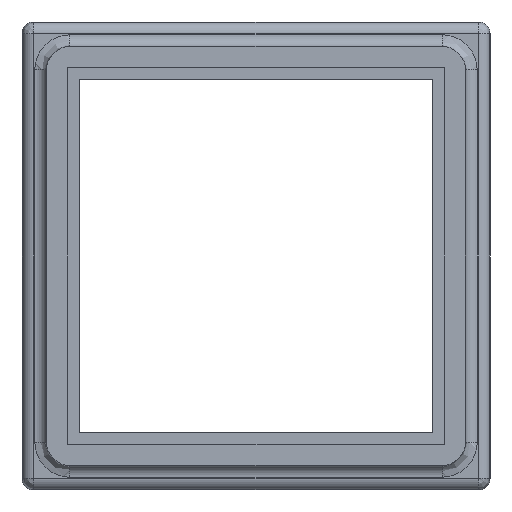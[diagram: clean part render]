
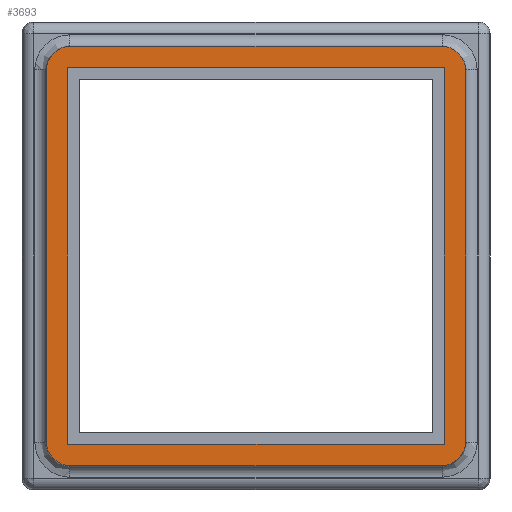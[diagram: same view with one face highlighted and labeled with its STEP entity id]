
A CAD part, left-side view. The second image highlights one B-rep face of the part: STEP entity #3693.
In plain terms, the highlighted planar face has unit normal (-1, 0, 0).
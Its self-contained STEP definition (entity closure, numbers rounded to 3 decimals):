
#161 = FACE_BOUND ( 'NONE', #1846, .T. ) ;
#168 = VECTOR ( 'NONE', #1755, 1000. ) ;
#198 = CARTESIAN_POINT ( 'NONE',  ( -85., 35.9, 15.9 ) ) ;
#298 = VECTOR ( 'NONE', #2063, 1000. ) ;
#305 = EDGE_CURVE ( 'NONE', #1193, #5551, #4765, .T. ) ;
#326 = CARTESIAN_POINT ( 'NONE',  ( -85., 0., 16.1 ) ) ;
#457 = ORIENTED_EDGE ( 'NONE', *, *, #557, .T. ) ;
#467 = EDGE_CURVE ( 'NONE', #1795, #5581, #920, .T. ) ;
#557 = EDGE_CURVE ( 'NONE', #5449, #3207, #5552, .T. ) ;
#611 = VECTOR ( 'NONE', #3417, 1000. ) ;
#741 = DIRECTION ( 'NONE',  ( 0., 1., 0. ) ) ;
#839 = EDGE_LOOP ( 'NONE', ( #457, #5276, #3387, #2183, #4678, #1726, #1182, #4407 ) ) ;
#909 = DIRECTION ( 'NONE',  ( -1., 0., 0. ) ) ;
#920 = LINE ( 'NONE', #2649, #1721 ) ;
#1022 = PLANE ( 'NONE',  #5036 ) ;
#1033 = DIRECTION ( 'NONE',  ( 1., 0., 0. ) ) ;
#1115 = DIRECTION ( 'NONE',  ( 0., 0., -1. ) ) ;
#1136 = CARTESIAN_POINT ( 'NONE',  ( -85., 3.9, 0. ) ) ;
#1182 = ORIENTED_EDGE ( 'NONE', *, *, #2190, .T. ) ;
#1193 = VERTEX_POINT ( 'NONE', #3583 ) ;
#1219 = CIRCLE ( 'NONE', #3924, 2. ) ;
#1234 = AXIS2_PLACEMENT_3D ( 'NONE', #198, #1033, #1115 ) ;
#1431 = CIRCLE ( 'NONE', #4405, 2. ) ;
#1611 = EDGE_CURVE ( 'NONE', #2762, #3570, #3285, .T. ) ;
#1651 = CARTESIAN_POINT ( 'NONE',  ( -85., 37.9, -15.9 ) ) ;
#1664 = CARTESIAN_POINT ( 'NONE',  ( -85., 2.1, 17.9 ) ) ;
#1677 = CARTESIAN_POINT ( 'NONE',  ( -85., 37.9, -17.9 ) ) ;
#1721 = VECTOR ( 'NONE', #2254, 1000. ) ;
#1726 = ORIENTED_EDGE ( 'NONE', *, *, #4404, .T. ) ;
#1755 = DIRECTION ( 'NONE',  ( 0., 0., 1. ) ) ;
#1761 = CARTESIAN_POINT ( 'NONE',  ( -85., 4.1, -15.9 ) ) ;
#1770 = ORIENTED_EDGE ( 'NONE', *, *, #1611, .T. ) ;
#1777 = EDGE_CURVE ( 'NONE', #4358, #5108, #5621, .T. ) ;
#1795 = VERTEX_POINT ( 'NONE', #4357 ) ;
#1846 = EDGE_LOOP ( 'NONE', ( #4170, #1770, #2518, #4227 ) ) ;
#1955 = LINE ( 'NONE', #2886, #5345 ) ;
#2040 = LINE ( 'NONE', #326, #611 ) ;
#2063 = DIRECTION ( 'NONE',  ( 0., 1., 0. ) ) ;
#2102 = CARTESIAN_POINT ( 'NONE',  ( -85., 35.9, -17.9 ) ) ;
#2160 = CARTESIAN_POINT ( 'NONE',  ( -85., 2.1, -15.9 ) ) ;
#2183 = ORIENTED_EDGE ( 'NONE', *, *, #2264, .F. ) ;
#2190 = EDGE_CURVE ( 'NONE', #3046, #5185, #1955, .T. ) ;
#2210 = DIRECTION ( 'NONE',  ( -1., 0., 0. ) ) ;
#2254 = DIRECTION ( 'NONE',  ( 0., 0., -1. ) ) ;
#2264 = EDGE_CURVE ( 'NONE', #4358, #5581, #1431, .T. ) ;
#2293 = EDGE_CURVE ( 'NONE', #5551, #2762, #2040, .T. ) ;
#2298 = CARTESIAN_POINT ( 'NONE',  ( -85., 4.1, 15.9 ) ) ;
#2518 = ORIENTED_EDGE ( 'NONE', *, *, #4281, .T. ) ;
#2528 = LINE ( 'NONE', #4627, #4188 ) ;
#2544 = DIRECTION ( 'NONE',  ( 1., 0., 0. ) ) ;
#2649 = CARTESIAN_POINT ( 'NONE',  ( -85., 37.9, 17.9 ) ) ;
#2697 = DIRECTION ( 'NONE',  ( 0., 0., -1. ) ) ;
#2724 = FACE_OUTER_BOUND ( 'NONE', #839, .T. ) ;
#2762 = VERTEX_POINT ( 'NONE', #4048 ) ;
#2833 = DIRECTION ( 'NONE',  ( 0., 0., -1. ) ) ;
#2865 = DIRECTION ( 'NONE',  ( 0., 0., -1. ) ) ;
#2886 = CARTESIAN_POINT ( 'NONE',  ( -85., 2.1, -17.9 ) ) ;
#3026 = AXIS2_PLACEMENT_3D ( 'NONE', #1761, #909, #2697 ) ;
#3046 = VERTEX_POINT ( 'NONE', #2160 ) ;
#3187 = CARTESIAN_POINT ( 'NONE',  ( -85., 3.9, -16.1 ) ) ;
#3206 = CIRCLE ( 'NONE', #3026, 2. ) ;
#3207 = VERTEX_POINT ( 'NONE', #4097 ) ;
#3285 = LINE ( 'NONE', #1136, #4654 ) ;
#3380 = VECTOR ( 'NONE', #4684, 1000. ) ;
#3387 = ORIENTED_EDGE ( 'NONE', *, *, #467, .T. ) ;
#3417 = DIRECTION ( 'NONE',  ( 0., -1., 0. ) ) ;
#3570 = VERTEX_POINT ( 'NONE', #3187 ) ;
#3583 = CARTESIAN_POINT ( 'NONE',  ( -85., 36.1, -16.1 ) ) ;
#3693 = ADVANCED_FACE ( 'NONE', ( #2724, #161 ), #1022, .T. ) ;
#3726 = CARTESIAN_POINT ( 'NONE',  ( -85., 4.1, -17.9 ) ) ;
#3900 = CARTESIAN_POINT ( 'NONE',  ( -85., 36.1, 0. ) ) ;
#3924 = AXIS2_PLACEMENT_3D ( 'NONE', #2298, #4913, #2833 ) ;
#4048 = CARTESIAN_POINT ( 'NONE',  ( -85., 3.9, 16.1 ) ) ;
#4097 = CARTESIAN_POINT ( 'NONE',  ( -85., 35.9, 17.9 ) ) ;
#4154 = EDGE_CURVE ( 'NONE', #1795, #3207, #5403, .T. ) ;
#4170 = ORIENTED_EDGE ( 'NONE', *, *, #2293, .T. ) ;
#4188 = VECTOR ( 'NONE', #741, 1000. ) ;
#4202 = DIRECTION ( 'NONE',  ( 0., 0., -1. ) ) ;
#4227 = ORIENTED_EDGE ( 'NONE', *, *, #305, .T. ) ;
#4259 = CARTESIAN_POINT ( 'NONE',  ( -85., 35.9, -15.9 ) ) ;
#4281 = EDGE_CURVE ( 'NONE', #3570, #1193, #2528, .T. ) ;
#4357 = CARTESIAN_POINT ( 'NONE',  ( -85., 37.9, 15.9 ) ) ;
#4358 = VERTEX_POINT ( 'NONE', #2102 ) ;
#4404 = EDGE_CURVE ( 'NONE', #5108, #3046, #3206, .T. ) ;
#4405 = AXIS2_PLACEMENT_3D ( 'NONE', #4259, #2544, #4202 ) ;
#4407 = ORIENTED_EDGE ( 'NONE', *, *, #4592, .T. ) ;
#4592 = EDGE_CURVE ( 'NONE', #5185, #5449, #1219, .T. ) ;
#4626 = CARTESIAN_POINT ( 'NONE',  ( -85., 36.1, 16.1 ) ) ;
#4627 = CARTESIAN_POINT ( 'NONE',  ( -85., 0., -16.1 ) ) ;
#4654 = VECTOR ( 'NONE', #2865, 1000. ) ;
#4678 = ORIENTED_EDGE ( 'NONE', *, *, #1777, .T. ) ;
#4684 = DIRECTION ( 'NONE',  ( 0., -1., 0. ) ) ;
#4765 = LINE ( 'NONE', #3900, #168 ) ;
#4797 = DIRECTION ( 'NONE',  ( 0., 0., 1. ) ) ;
#4913 = DIRECTION ( 'NONE',  ( -1., 0., 0. ) ) ;
#5036 = AXIS2_PLACEMENT_3D ( 'NONE', #5260, #2210, #4797 ) ;
#5108 = VERTEX_POINT ( 'NONE', #3726 ) ;
#5155 = CARTESIAN_POINT ( 'NONE',  ( -85., 2.1, 15.9 ) ) ;
#5185 = VERTEX_POINT ( 'NONE', #5155 ) ;
#5201 = CARTESIAN_POINT ( 'NONE',  ( -85., 4.1, 17.9 ) ) ;
#5260 = CARTESIAN_POINT ( 'NONE',  ( -85., 0., 0. ) ) ;
#5276 = ORIENTED_EDGE ( 'NONE', *, *, #4154, .F. ) ;
#5345 = VECTOR ( 'NONE', #5394, 1000. ) ;
#5394 = DIRECTION ( 'NONE',  ( 0., 0., 1. ) ) ;
#5403 = CIRCLE ( 'NONE', #1234, 2. ) ;
#5449 = VERTEX_POINT ( 'NONE', #5201 ) ;
#5551 = VERTEX_POINT ( 'NONE', #4626 ) ;
#5552 = LINE ( 'NONE', #1664, #298 ) ;
#5581 = VERTEX_POINT ( 'NONE', #1651 ) ;
#5621 = LINE ( 'NONE', #1677, #3380 ) ;
